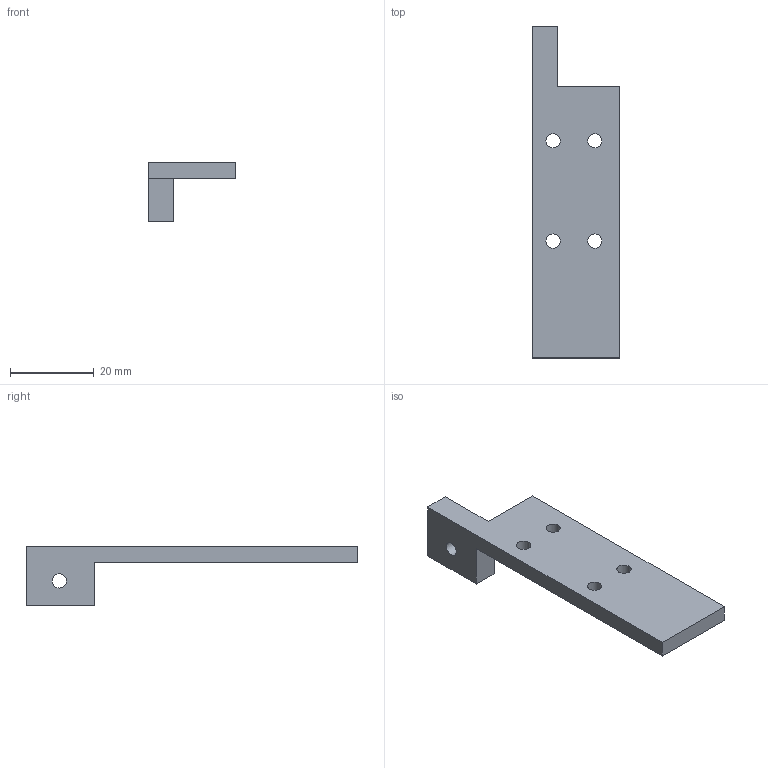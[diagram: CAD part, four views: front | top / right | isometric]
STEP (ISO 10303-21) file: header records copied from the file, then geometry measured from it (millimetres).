
FILE_DESCRIPTION(('Open CASCADE Model'),'2;1');
FILE_NAME('Open CASCADE Shape Model','2026-10-16T05:25:08',('Author'),( 'Open CASCADE'),'Open CASCADE STEP processor 7.9','Open CASCADE 7.9' ,'Unknown');
FILE_SCHEMA(('AUTOMOTIVE_DESIGN { 1 0 10303 214 1 1 1 1 }'));
Length unit declared in the file: millimetre
Products named in the file (1): Open CASCADE STEP translator 7.9 18
Bounding box: 21 x 79.5 x 14.36 mm (x, y, z)
Volume: 6634.2 mm3; surface area: 4318.6 mm2
Topology: 1 solids, 1 shells, 15 faces, 39 edges, 26 vertices
Faces by surface type: plane 10, cylinder 5
Full cylindrical faces by diameter (mm): 3.4 x5
Entity records: 1024 total; most frequent: CARTESIAN_POINT 225, DIRECTION 143, LINE 91, VECTOR 91, ORIENTED_EDGE 78, PCURVE 78, DEFINITIONAL_REPRESENTATION 78, EDGE_CURVE 39
